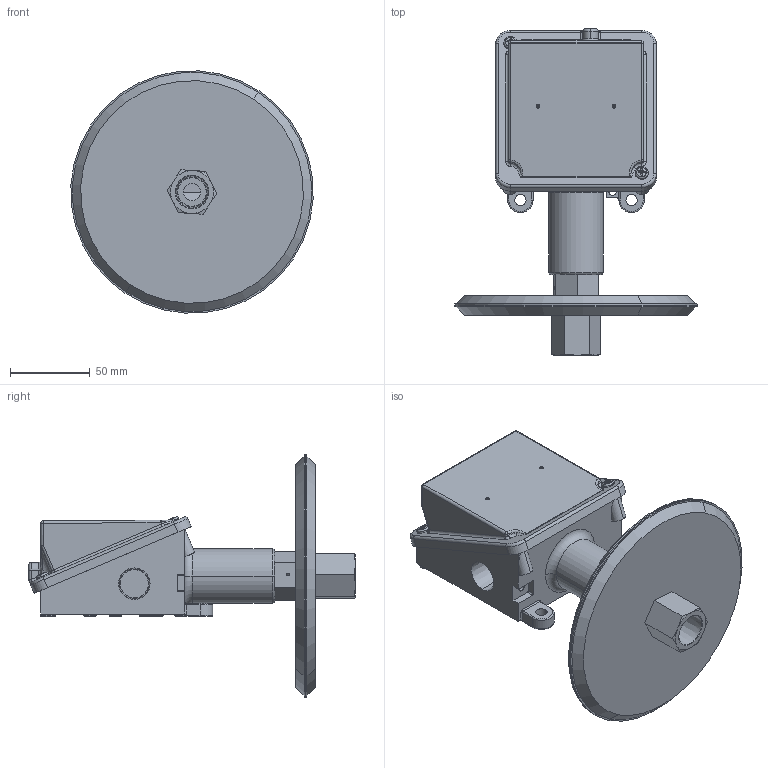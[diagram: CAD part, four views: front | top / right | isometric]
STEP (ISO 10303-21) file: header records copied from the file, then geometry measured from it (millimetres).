
FILE_DESCRIPTION (( 'STEP AP214' ), '1' );
FILE_NAME ('H100-530_535_V1.STEP', '2025-02-21T15:41:36', ( '' ), ( '' ), 'SwSTEP 2.0', 'SolidWorks 2023', '' );
FILE_SCHEMA (( 'AUTOMOTIVE_DESIGN' ));
Length unit declared in the file: inch
Products named in the file (1): H100-530_535_V1
Bounding box: 152.11 x 205.16 x 152.11 mm (x, y, z)
Volume: 355354.4 mm3; surface area: 190913.6 mm2
Topology: 9 solids, 9 shells, 893 faces, 2085 edges, 1234 vertices
Faces by surface type: cylinder 366, plane 263, torus 129, cone 63, bspline 36, sphere 36
Entity records: 26772 total; most frequent: CARTESIAN_POINT 6177, DIRECTION 4613, ORIENTED_EDGE 4082, EDGE_CURVE 2041, AXIS2_PLACEMENT_3D 1854, VERTEX_POINT 1234, CIRCLE 996, EDGE_LOOP 993
